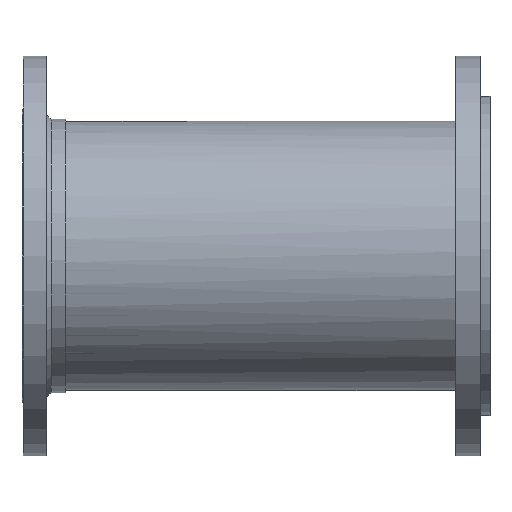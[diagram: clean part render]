
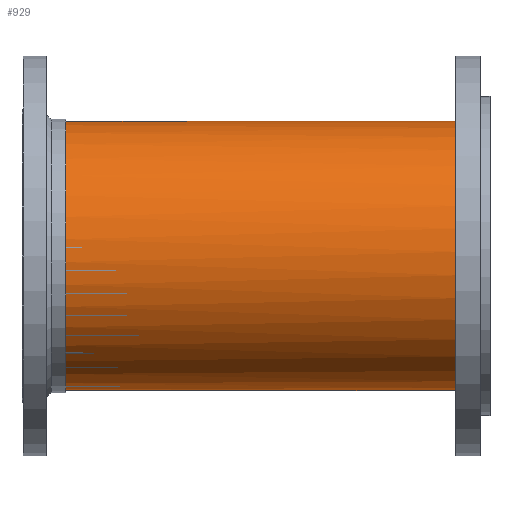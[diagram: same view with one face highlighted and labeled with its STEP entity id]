
A CAD part, left-side view. The second image highlights one B-rep face of the part: STEP entity #929.
In plain terms, the highlighted cylindrical face has radius 175.768 mm (diameter 351.536 mm), a full revolution.
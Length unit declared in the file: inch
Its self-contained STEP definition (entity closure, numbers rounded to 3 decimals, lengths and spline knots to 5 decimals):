
#28=FACE_BOUND('',#207,.T.);
#149=FACE_OUTER_BOUND('',#206,.T.);
#206=EDGE_LOOP('',(#651));
#207=EDGE_LOOP('',(#652));
#384=CIRCLE('',#989,6.92);
#385=CIRCLE('',#990,6.92);
#473=VERTEX_POINT('',#1430);
#474=VERTEX_POINT('',#1432);
#562=EDGE_CURVE('',#473,#473,#384,.T.);
#563=EDGE_CURVE('',#474,#474,#385,.T.);
#651=ORIENTED_EDGE('',*,*,#562,.F.);
#652=ORIENTED_EDGE('',*,*,#563,.F.);
#829=CYLINDRICAL_SURFACE('',#988,6.92);
#929=ADVANCED_FACE('',(#149,#28),#829,.T.);
#988=AXIS2_PLACEMENT_3D('',#1429,#1136,#1137);
#989=AXIS2_PLACEMENT_3D('',#1431,#1138,#1139);
#990=AXIS2_PLACEMENT_3D('',#1433,#1140,#1141);
#1136=DIRECTION('center_axis',(0.,-1.,0.));
#1137=DIRECTION('ref_axis',(0.557,0.,0.831));
#1138=DIRECTION('center_axis',(0.,-1.,0.));
#1139=DIRECTION('ref_axis',(-0.746,0.,0.666));
#1140=DIRECTION('center_axis',(0.,1.,0.));
#1141=DIRECTION('ref_axis',(0.747,0.,0.664));
#1429=CARTESIAN_POINT('Origin',(0.,22.75,0.));
#1430=CARTESIAN_POINT('',(5.16003,1.5,-4.61091));
#1431=CARTESIAN_POINT('Origin',(0.,1.5,0.));
#1432=CARTESIAN_POINT('',(-5.17162,21.75,-4.59791));
#1433=CARTESIAN_POINT('Origin',(0.,21.75,0.));
